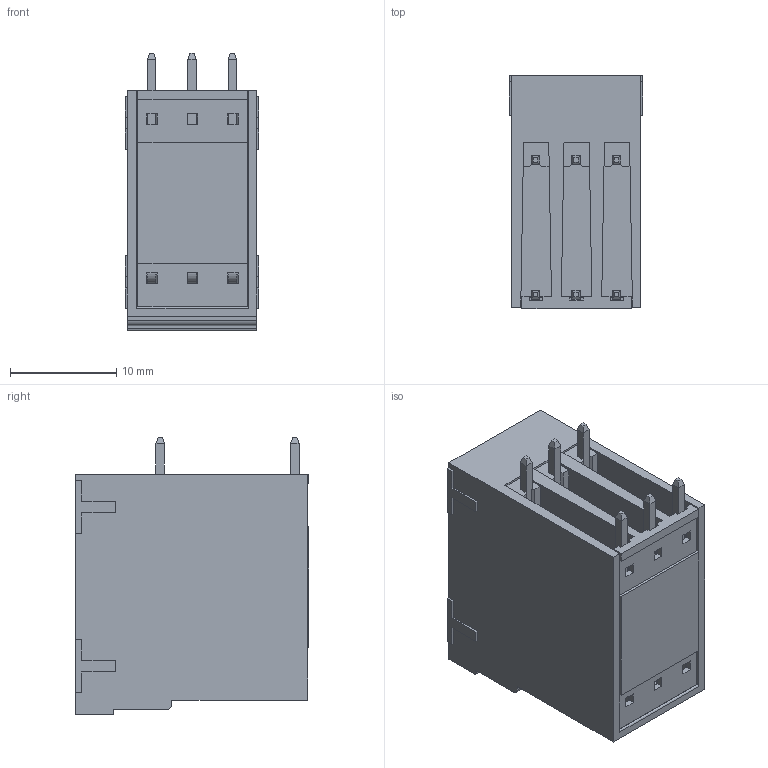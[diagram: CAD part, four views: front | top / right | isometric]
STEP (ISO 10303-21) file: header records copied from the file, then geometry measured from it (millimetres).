
FILE_DESCRIPTION((''),'2;1');
FILE_NAME('VL06','2020-03-02T',('renkang.li'),(''),'CREO PARAMETRIC BY PTC INC, 2016260','CREO PARAMETRIC BY PTC INC, 2016260','');
FILE_SCHEMA(('CONFIG_CONTROL_DESIGN'));
Length unit declared in the file: millimetre
Products named in the file (1): VL06
Bounding box: 12.58 x 22 x 26.2 mm (x, y, z)
Volume: 2456.3 mm3; surface area: 6423.4 mm2
Topology: 1 solids, 7 shells, 611 faces, 1700 edges, 1104 vertices
Faces by surface type: plane 533, cylinder 54, torus 12, cone 12
Entity records: 19356 total; most frequent: CARTESIAN_POINT 3535, ORIENTED_EDGE 3400, DIRECTION 3064, EDGE_CURVE 1700, VECTOR 1498, LINE 1498, VERTEX_POINT 1104, AXIS2_PLACEMENT_3D 783
